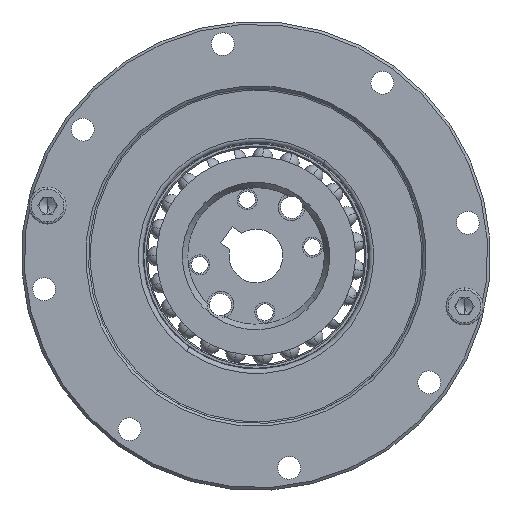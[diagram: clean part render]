
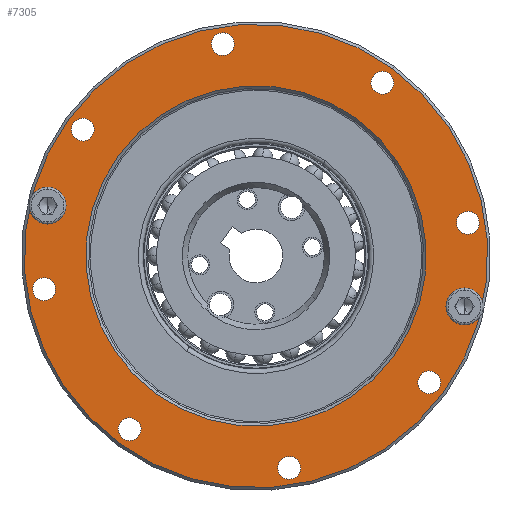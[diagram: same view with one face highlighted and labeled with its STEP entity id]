
A CAD part, left-side view. The second image highlights one B-rep face of the part: STEP entity #7305.
In plain terms, the highlighted planar face has unit normal (-1, 0, 0).
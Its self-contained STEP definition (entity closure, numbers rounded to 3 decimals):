
#6414=CARTESIAN_POINT('',(1.,0.,0.));
#6415=DIRECTION('',(1.,0.,0.));
#6416=DIRECTION('',(0.,0.,-1.));
#6417=AXIS2_PLACEMENT_3D('',#6414,#6415,#6416);
#6419=CARTESIAN_POINT('',(1.,0.,0.));
#6420=DIRECTION('',(1.,0.,0.));
#6421=DIRECTION('',(0.,0.,1.));
#6422=AXIS2_PLACEMENT_3D('',#6419,#6420,#6421);
#6424=CARTESIAN_POINT('',(1.,0.,0.));
#6425=DIRECTION('',(-1.,0.,0.));
#6426=DIRECTION('',(0.,0.,-1.));
#6427=AXIS2_PLACEMENT_3D('',#6424,#6425,#6426);
#6429=CARTESIAN_POINT('',(1.,0.,0.));
#6430=DIRECTION('',(-1.,0.,0.));
#6431=DIRECTION('',(0.,0.,1.));
#6432=AXIS2_PLACEMENT_3D('',#6429,#6430,#6431);
#6434=CARTESIAN_POINT('',(1.,32.,0.));
#6435=DIRECTION('',(-1.,0.,0.));
#6436=DIRECTION('',(0.,0.,1.));
#6437=AXIS2_PLACEMENT_3D('',#6434,#6435,#6436);
#6439=CARTESIAN_POINT('',(1.,32.,0.));
#6440=DIRECTION('',(-1.,0.,0.));
#6441=DIRECTION('',(0.,0.,-1.));
#6442=AXIS2_PLACEMENT_3D('',#6439,#6440,#6441);
#6444=CARTESIAN_POINT('',(1.,22.627,-22.627));
#6445=DIRECTION('',(-1.,0.,0.));
#6446=DIRECTION('',(0.,0.,1.));
#6447=AXIS2_PLACEMENT_3D('',#6444,#6445,#6446);
#6449=CARTESIAN_POINT('',(1.,22.627,-22.627));
#6450=DIRECTION('',(-1.,0.,0.));
#6451=DIRECTION('',(0.,0.,-1.));
#6452=AXIS2_PLACEMENT_3D('',#6449,#6450,#6451);
#6454=CARTESIAN_POINT('',(1.,0.,-32.));
#6455=DIRECTION('',(-1.,0.,0.));
#6456=DIRECTION('',(0.,0.,1.));
#6457=AXIS2_PLACEMENT_3D('',#6454,#6455,#6456);
#6459=CARTESIAN_POINT('',(1.,0.,-32.));
#6460=DIRECTION('',(-1.,0.,0.));
#6461=DIRECTION('',(0.,0.,-1.));
#6462=AXIS2_PLACEMENT_3D('',#6459,#6460,#6461);
#6464=CARTESIAN_POINT('',(1.,-22.627,-22.627));
#6465=DIRECTION('',(-1.,0.,0.));
#6466=DIRECTION('',(0.,0.,1.));
#6467=AXIS2_PLACEMENT_3D('',#6464,#6465,#6466);
#6469=CARTESIAN_POINT('',(1.,-22.627,-22.627));
#6470=DIRECTION('',(-1.,0.,0.));
#6471=DIRECTION('',(0.,0.,-1.));
#6472=AXIS2_PLACEMENT_3D('',#6469,#6470,#6471);
#6474=CARTESIAN_POINT('',(1.,-32.,0.));
#6475=DIRECTION('',(-1.,0.,0.));
#6476=DIRECTION('',(0.,0.,1.));
#6477=AXIS2_PLACEMENT_3D('',#6474,#6475,#6476);
#6479=CARTESIAN_POINT('',(1.,-32.,0.));
#6480=DIRECTION('',(-1.,0.,0.));
#6481=DIRECTION('',(0.,0.,-1.));
#6482=AXIS2_PLACEMENT_3D('',#6479,#6480,#6481);
#6484=CARTESIAN_POINT('',(1.,-22.627,22.627));
#6485=DIRECTION('',(-1.,0.,0.));
#6486=DIRECTION('',(0.,0.,1.));
#6487=AXIS2_PLACEMENT_3D('',#6484,#6485,#6486);
#6489=CARTESIAN_POINT('',(1.,-22.627,22.627));
#6490=DIRECTION('',(-1.,0.,0.));
#6491=DIRECTION('',(0.,0.,-1.));
#6492=AXIS2_PLACEMENT_3D('',#6489,#6490,#6491);
#6494=CARTESIAN_POINT('',(1.,0.,32.));
#6495=DIRECTION('',(-1.,0.,0.));
#6496=DIRECTION('',(0.,0.,1.));
#6497=AXIS2_PLACEMENT_3D('',#6494,#6495,#6496);
#6499=CARTESIAN_POINT('',(1.,0.,32.));
#6500=DIRECTION('',(-1.,0.,0.));
#6501=DIRECTION('',(0.,0.,-1.));
#6502=AXIS2_PLACEMENT_3D('',#6499,#6500,#6501);
#6504=CARTESIAN_POINT('',(1.,22.627,22.627));
#6505=DIRECTION('',(-1.,0.,0.));
#6506=DIRECTION('',(0.,0.,1.));
#6507=AXIS2_PLACEMENT_3D('',#6504,#6505,#6506);
#6509=CARTESIAN_POINT('',(1.,22.627,22.627));
#6510=DIRECTION('',(-1.,0.,0.));
#6511=DIRECTION('',(0.,0.,-1.));
#6512=AXIS2_PLACEMENT_3D('',#6509,#6510,#6511);
#6514=CARTESIAN_POINT('',(1.,29.564,-12.246));
#6515=DIRECTION('',(-1.,0.,0.));
#6516=DIRECTION('',(0.,0.,-1.));
#6517=AXIS2_PLACEMENT_3D('',#6514,#6515,#6516);
#6519=CARTESIAN_POINT('',(1.,29.564,-12.246));
#6520=DIRECTION('',(-1.,0.,0.));
#6521=DIRECTION('',(0.,0.,1.));
#6522=AXIS2_PLACEMENT_3D('',#6519,#6520,#6521);
#6524=CARTESIAN_POINT('',(1.,-29.564,12.246));
#6525=DIRECTION('',(-1.,0.,0.));
#6526=DIRECTION('',(0.,0.,-1.));
#6527=AXIS2_PLACEMENT_3D('',#6524,#6525,#6526);
#6529=CARTESIAN_POINT('',(1.,-29.564,12.246));
#6530=DIRECTION('',(-1.,0.,0.));
#6531=DIRECTION('',(0.,0.,1.));
#6532=AXIS2_PLACEMENT_3D('',#6529,#6530,#6531);
#7036=CARTESIAN_POINT('',(1.,-29.564,13.496));
#7038=VERTEX_POINT('',#7036);
#7040=CARTESIAN_POINT('',(1.,-29.564,10.996));
#7041=VERTEX_POINT('',#7040);
#7044=CARTESIAN_POINT('',(1.,0.,-34.6));
#7045=CARTESIAN_POINT('',(1.,0.,34.6));
#7046=VERTEX_POINT('',#7044);
#7047=VERTEX_POINT('',#7045);
#7048=CARTESIAN_POINT('',(1.,0.,-25.4));
#7049=CARTESIAN_POINT('',(1.,0.,25.4));
#7050=VERTEX_POINT('',#7048);
#7051=VERTEX_POINT('',#7049);
#7052=CARTESIAN_POINT('',(1.,32.,1.7));
#7053=CARTESIAN_POINT('',(1.,32.,-1.7));
#7054=VERTEX_POINT('',#7052);
#7055=VERTEX_POINT('',#7053);
#7056=CARTESIAN_POINT('',(1.,22.627,-20.927));
#7057=CARTESIAN_POINT('',(1.,22.627,-24.327));
#7058=VERTEX_POINT('',#7056);
#7059=VERTEX_POINT('',#7057);
#7060=CARTESIAN_POINT('',(1.,0.,-30.3));
#7061=CARTESIAN_POINT('',(1.,0.,-33.7));
#7062=VERTEX_POINT('',#7060);
#7063=VERTEX_POINT('',#7061);
#7064=CARTESIAN_POINT('',(1.,-22.627,-20.927));
#7065=CARTESIAN_POINT('',(1.,-22.627,-24.327));
#7066=VERTEX_POINT('',#7064);
#7067=VERTEX_POINT('',#7065);
#7068=CARTESIAN_POINT('',(1.,-32.,1.7));
#7069=CARTESIAN_POINT('',(1.,-32.,-1.7));
#7070=VERTEX_POINT('',#7068);
#7071=VERTEX_POINT('',#7069);
#7072=CARTESIAN_POINT('',(1.,-22.627,24.327));
#7073=CARTESIAN_POINT('',(1.,-22.627,20.927));
#7074=VERTEX_POINT('',#7072);
#7075=VERTEX_POINT('',#7073);
#7076=CARTESIAN_POINT('',(1.,0.,33.7));
#7077=CARTESIAN_POINT('',(1.,0.,30.3));
#7078=VERTEX_POINT('',#7076);
#7079=VERTEX_POINT('',#7077);
#7080=CARTESIAN_POINT('',(1.,22.627,24.327));
#7081=CARTESIAN_POINT('',(1.,22.627,20.927));
#7082=VERTEX_POINT('',#7080);
#7083=VERTEX_POINT('',#7081);
#7084=CARTESIAN_POINT('',(1.,29.564,-13.496));
#7085=CARTESIAN_POINT('',(1.,29.564,-10.996));
#7086=VERTEX_POINT('',#7084);
#7087=VERTEX_POINT('',#7085);
#7230=CARTESIAN_POINT('',(1.,0.,0.));
#7231=DIRECTION('',(1.,0.,0.));
#7232=DIRECTION('',(0.,0.,-1.));
#7233=AXIS2_PLACEMENT_3D('',#7230,#7231,#7232);
#7234=PLANE('',#7233);
#7236=ORIENTED_EDGE('',*,*,#7235,.T.);
#7238=ORIENTED_EDGE('',*,*,#7237,.T.);
#7239=EDGE_LOOP('',(#7236,#7238));
#7240=FACE_OUTER_BOUND('',#7239,.F.);
#7242=ORIENTED_EDGE('',*,*,#7241,.T.);
#7244=ORIENTED_EDGE('',*,*,#7243,.T.);
#7245=EDGE_LOOP('',(#7242,#7244));
#7246=FACE_BOUND('',#7245,.F.);
#7248=ORIENTED_EDGE('',*,*,#7247,.T.);
#7250=ORIENTED_EDGE('',*,*,#7249,.T.);
#7251=EDGE_LOOP('',(#7248,#7250));
#7252=FACE_BOUND('',#7251,.F.);
#7254=ORIENTED_EDGE('',*,*,#7253,.T.);
#7256=ORIENTED_EDGE('',*,*,#7255,.T.);
#7257=EDGE_LOOP('',(#7254,#7256));
#7258=FACE_BOUND('',#7257,.F.);
#7260=ORIENTED_EDGE('',*,*,#7259,.T.);
#7262=ORIENTED_EDGE('',*,*,#7261,.T.);
#7263=EDGE_LOOP('',(#7260,#7262));
#7264=FACE_BOUND('',#7263,.F.);
#7266=ORIENTED_EDGE('',*,*,#7265,.T.);
#7268=ORIENTED_EDGE('',*,*,#7267,.T.);
#7269=EDGE_LOOP('',(#7266,#7268));
#7270=FACE_BOUND('',#7269,.F.);
#7272=ORIENTED_EDGE('',*,*,#7271,.T.);
#7274=ORIENTED_EDGE('',*,*,#7273,.T.);
#7275=EDGE_LOOP('',(#7272,#7274));
#7276=FACE_BOUND('',#7275,.F.);
#7278=ORIENTED_EDGE('',*,*,#7277,.T.);
#7280=ORIENTED_EDGE('',*,*,#7279,.T.);
#7281=EDGE_LOOP('',(#7278,#7280));
#7282=FACE_BOUND('',#7281,.F.);
#7284=ORIENTED_EDGE('',*,*,#7283,.T.);
#7286=ORIENTED_EDGE('',*,*,#7285,.T.);
#7287=EDGE_LOOP('',(#7284,#7286));
#7288=FACE_BOUND('',#7287,.F.);
#7290=ORIENTED_EDGE('',*,*,#7289,.T.);
#7292=ORIENTED_EDGE('',*,*,#7291,.T.);
#7293=EDGE_LOOP('',(#7290,#7292));
#7294=FACE_BOUND('',#7293,.F.);
#7296=ORIENTED_EDGE('',*,*,#7295,.T.);
#7298=ORIENTED_EDGE('',*,*,#7297,.T.);
#7299=EDGE_LOOP('',(#7296,#7298));
#7300=FACE_BOUND('',#7299,.F.);
#7301=ORIENTED_EDGE('',*,*,#7207,.T.);
#7302=ORIENTED_EDGE('',*,*,#7221,.T.);
#7303=EDGE_LOOP('',(#7301,#7302));
#7304=FACE_BOUND('',#7303,.F.);
#6418=CIRCLE('',#6417,34.6);
#6423=CIRCLE('',#6422,34.6);
#6428=CIRCLE('',#6427,25.4);
#6433=CIRCLE('',#6432,25.4);
#6438=CIRCLE('',#6437,1.7);
#6443=CIRCLE('',#6442,1.7);
#6448=CIRCLE('',#6447,1.7);
#6453=CIRCLE('',#6452,1.7);
#6458=CIRCLE('',#6457,1.7);
#6463=CIRCLE('',#6462,1.7);
#6468=CIRCLE('',#6467,1.7);
#6473=CIRCLE('',#6472,1.7);
#6478=CIRCLE('',#6477,1.7);
#6483=CIRCLE('',#6482,1.7);
#6488=CIRCLE('',#6487,1.7);
#6493=CIRCLE('',#6492,1.7);
#6498=CIRCLE('',#6497,1.7);
#6503=CIRCLE('',#6502,1.7);
#6508=CIRCLE('',#6507,1.7);
#6513=CIRCLE('',#6512,1.7);
#6518=CIRCLE('',#6517,1.25);
#6523=CIRCLE('',#6522,1.25);
#6528=CIRCLE('',#6527,1.25);
#6533=CIRCLE('',#6532,1.25);
#7207=EDGE_CURVE('',#7041,#7038,#6528,.T.);
#7221=EDGE_CURVE('',#7038,#7041,#6533,.T.);
#7235=EDGE_CURVE('',#7046,#7047,#6418,.T.);
#7237=EDGE_CURVE('',#7047,#7046,#6423,.T.);
#7241=EDGE_CURVE('',#7050,#7051,#6428,.T.);
#7243=EDGE_CURVE('',#7051,#7050,#6433,.T.);
#7247=EDGE_CURVE('',#7054,#7055,#6438,.T.);
#7249=EDGE_CURVE('',#7055,#7054,#6443,.T.);
#7253=EDGE_CURVE('',#7058,#7059,#6448,.T.);
#7255=EDGE_CURVE('',#7059,#7058,#6453,.T.);
#7259=EDGE_CURVE('',#7062,#7063,#6458,.T.);
#7261=EDGE_CURVE('',#7063,#7062,#6463,.T.);
#7265=EDGE_CURVE('',#7066,#7067,#6468,.T.);
#7267=EDGE_CURVE('',#7067,#7066,#6473,.T.);
#7271=EDGE_CURVE('',#7070,#7071,#6478,.T.);
#7273=EDGE_CURVE('',#7071,#7070,#6483,.T.);
#7277=EDGE_CURVE('',#7074,#7075,#6488,.T.);
#7279=EDGE_CURVE('',#7075,#7074,#6493,.T.);
#7283=EDGE_CURVE('',#7078,#7079,#6498,.T.);
#7285=EDGE_CURVE('',#7079,#7078,#6503,.T.);
#7289=EDGE_CURVE('',#7082,#7083,#6508,.T.);
#7291=EDGE_CURVE('',#7083,#7082,#6513,.T.);
#7295=EDGE_CURVE('',#7086,#7087,#6518,.T.);
#7297=EDGE_CURVE('',#7087,#7086,#6523,.T.);
#7305=ADVANCED_FACE('',(#7240,#7246,#7252,#7258,#7264,#7270,#7276,#7282,#7288,
#7294,#7300,#7304),#7234,.F.);
